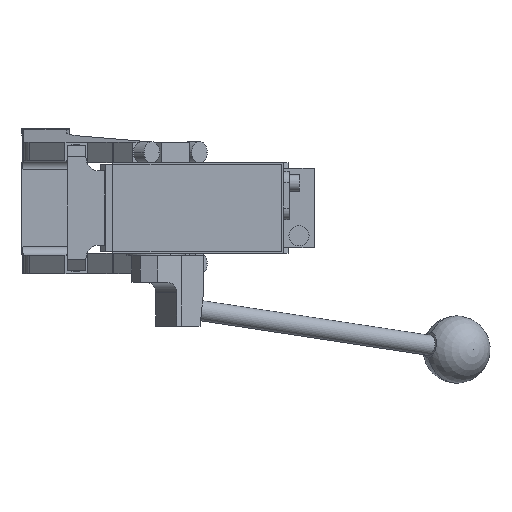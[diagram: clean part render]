
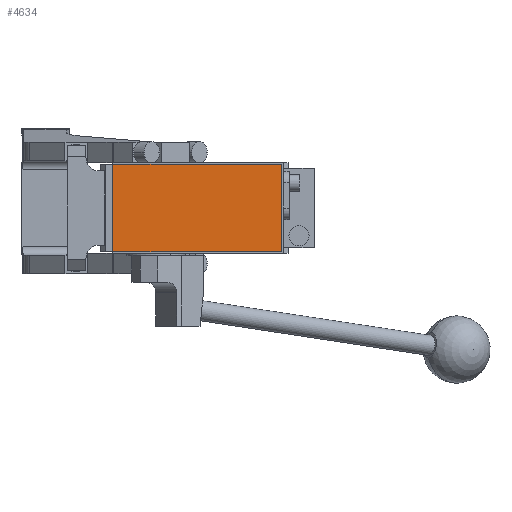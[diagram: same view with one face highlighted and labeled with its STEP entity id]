
A CAD part, front view. The second image highlights one B-rep face of the part: STEP entity #4634.
In plain terms, the highlighted planar face has unit normal (0, -1, 0).
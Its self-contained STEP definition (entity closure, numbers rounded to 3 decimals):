
#59 = EDGE_CURVE ( 'NONE', #1631, #6452, #314, .T. ) ;
#109 = VERTEX_POINT ( 'NONE', #5405 ) ;
#314 = LINE ( 'NONE', #1705, #14829 ) ;
#377 = DIRECTION ( 'NONE',  ( 0., -1., 0. ) ) ;
#448 = CARTESIAN_POINT ( 'NONE',  ( 81., -286.5, 26. ) ) ;
#998 = LINE ( 'NONE', #4685, #11651 ) ;
#1537 = AXIS2_PLACEMENT_3D ( 'NONE', #8922, #377, #9990 ) ;
#1631 = VERTEX_POINT ( 'NONE', #448 ) ;
#1705 = CARTESIAN_POINT ( 'NONE',  ( -19., -286.5, 26. ) ) ;
#3910 = FACE_OUTER_BOUND ( 'NONE', #5749, .T. ) ;
#4634 = ADVANCED_FACE ( 'NONE', ( #3910 ), #11656, .T. ) ;
#4685 = CARTESIAN_POINT ( 'NONE',  ( -19., -286.5, -26. ) ) ;
#5020 = CARTESIAN_POINT ( 'NONE',  ( 81., -286.5, -26. ) ) ;
#5317 = DIRECTION ( 'NONE',  ( -1., 0., 0. ) ) ;
#5350 = ORIENTED_EDGE ( 'NONE', *, *, #59, .T. ) ;
#5405 = CARTESIAN_POINT ( 'NONE',  ( -19., -286.5, -26. ) ) ;
#5749 = EDGE_LOOP ( 'NONE', ( #8120, #7033, #5829, #5350 ) ) ;
#5829 = ORIENTED_EDGE ( 'NONE', *, *, #13838, .T. ) ;
#6119 = CARTESIAN_POINT ( 'NONE',  ( 81., -286.5, 26. ) ) ;
#6163 = DIRECTION ( 'NONE',  ( 0., 0., -1. ) ) ;
#6452 = VERTEX_POINT ( 'NONE', #8406 ) ;
#6636 = EDGE_CURVE ( 'NONE', #6452, #109, #9608, .T. ) ;
#7033 = ORIENTED_EDGE ( 'NONE', *, *, #15865, .T. ) ;
#8120 = ORIENTED_EDGE ( 'NONE', *, *, #6636, .T. ) ;
#8406 = CARTESIAN_POINT ( 'NONE',  ( -19., -286.5, 26. ) ) ;
#8922 = CARTESIAN_POINT ( 'NONE',  ( 0., -286.5, 0. ) ) ;
#9596 = VERTEX_POINT ( 'NONE', #5020 ) ;
#9608 = LINE ( 'NONE', #13568, #11746 ) ;
#9990 = DIRECTION ( 'NONE',  ( 0., 0., -1. ) ) ;
#11440 = VECTOR ( 'NONE', #13598, 1000. ) ;
#11651 = VECTOR ( 'NONE', #14895, 1000. ) ;
#11656 = PLANE ( 'NONE',  #1537 ) ;
#11746 = VECTOR ( 'NONE', #6163, 1000. ) ;
#12296 = LINE ( 'NONE', #6119, #11440 ) ;
#13568 = CARTESIAN_POINT ( 'NONE',  ( -19., -286.5, 26. ) ) ;
#13598 = DIRECTION ( 'NONE',  ( 0., 0., 1. ) ) ;
#13838 = EDGE_CURVE ( 'NONE', #9596, #1631, #12296, .T. ) ;
#14829 = VECTOR ( 'NONE', #5317, 1000. ) ;
#14895 = DIRECTION ( 'NONE',  ( 1., 0., 0. ) ) ;
#15865 = EDGE_CURVE ( 'NONE', #109, #9596, #998, .T. ) ;
